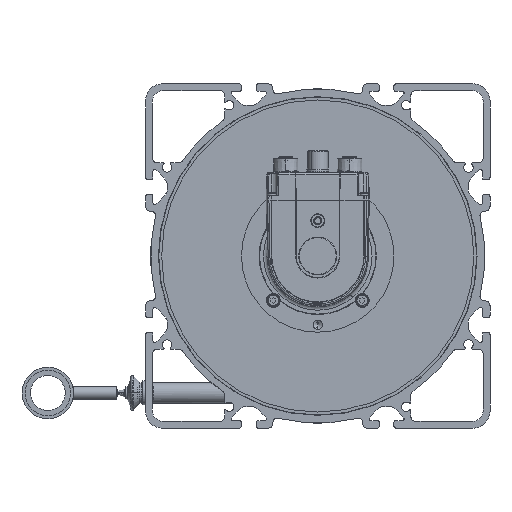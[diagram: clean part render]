
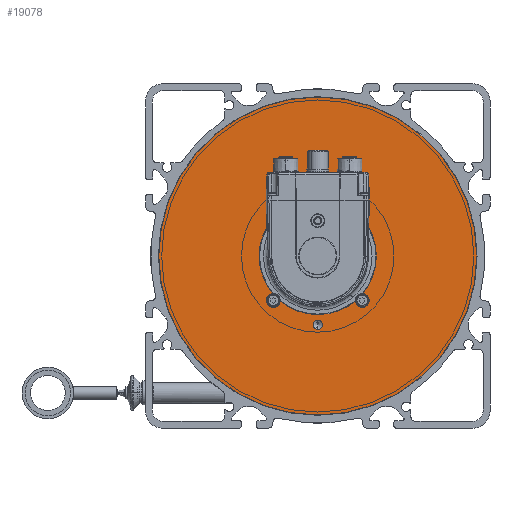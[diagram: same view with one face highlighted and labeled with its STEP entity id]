
A CAD part, left-side view. The second image highlights one B-rep face of the part: STEP entity #19078.
In plain terms, the highlighted planar face has unit normal (-1, 0, 0) as drawn and (1, 0, 0) by its records, which use the part's own axes.
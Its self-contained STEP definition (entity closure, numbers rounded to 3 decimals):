
#17919=CARTESIAN_POINT('',(8.,0.,0.));
#17920=DIRECTION('',(-1.,0.,0.));
#17921=DIRECTION('',(0.,1.,0.));
#17922=AXIS2_PLACEMENT_3D('',#17919,#17920,#17921);
#17927=CARTESIAN_POINT('',(8.,0.,0.));
#17928=DIRECTION('',(1.,0.,0.));
#17929=DIRECTION('',(0.,1.,0.));
#17930=AXIS2_PLACEMENT_3D('',#17927,#17928,#17929);
#17935=CARTESIAN_POINT('',(8.,-25.809,-25.809));
#17936=DIRECTION('',(1.,0.,0.));
#17937=DIRECTION('',(0.,-1.,0.));
#17938=AXIS2_PLACEMENT_3D('',#17935,#17936,#17937);
#17943=CARTESIAN_POINT('',(8.,-25.809,-25.809));
#17944=DIRECTION('',(1.,0.,0.));
#17945=DIRECTION('',(0.,1.,0.));
#17946=AXIS2_PLACEMENT_3D('',#17943,#17944,#17945);
#17951=CARTESIAN_POINT('',(8.,-25.809,25.809));
#17952=DIRECTION('',(1.,0.,0.));
#17953=DIRECTION('',(0.,0.,1.));
#17954=AXIS2_PLACEMENT_3D('',#17951,#17952,#17953);
#17959=CARTESIAN_POINT('',(8.,-25.809,25.809));
#17960=DIRECTION('',(1.,0.,0.));
#17961=DIRECTION('',(0.,0.,-1.));
#17962=AXIS2_PLACEMENT_3D('',#17959,#17960,#17961);
#17967=CARTESIAN_POINT('',(8.,25.809,25.809));
#17968=DIRECTION('',(1.,0.,0.));
#17969=DIRECTION('',(0.,1.,0.));
#17970=AXIS2_PLACEMENT_3D('',#17967,#17968,#17969);
#17975=CARTESIAN_POINT('',(8.,25.809,25.809));
#17976=DIRECTION('',(1.,0.,0.));
#17977=DIRECTION('',(0.,-1.,0.));
#17978=AXIS2_PLACEMENT_3D('',#17975,#17976,#17977);
#17983=CARTESIAN_POINT('',(8.,25.809,-25.809));
#17984=DIRECTION('',(1.,0.,0.));
#17985=DIRECTION('',(0.,0.,-1.));
#17986=AXIS2_PLACEMENT_3D('',#17983,#17984,#17985);
#17991=CARTESIAN_POINT('',(8.,25.809,-25.809));
#17992=DIRECTION('',(1.,0.,0.));
#17993=DIRECTION('',(0.,0.,1.));
#17994=AXIS2_PLACEMENT_3D('',#17991,#17992,#17993);
#17999=CARTESIAN_POINT('',(8.,40.,0.));
#18000=DIRECTION('',(1.,0.,0.));
#18001=DIRECTION('',(0.,-1.,0.));
#18002=AXIS2_PLACEMENT_3D('',#17999,#18000,#18001);
#18007=CARTESIAN_POINT('',(8.,40.,0.));
#18008=DIRECTION('',(1.,0.,0.));
#18009=DIRECTION('',(0.,1.,0.));
#18010=AXIS2_PLACEMENT_3D('',#18007,#18008,#18009);
#18015=CARTESIAN_POINT('',(8.,-40.,0.));
#18016=DIRECTION('',(1.,0.,0.));
#18017=DIRECTION('',(0.,1.,0.));
#18018=AXIS2_PLACEMENT_3D('',#18015,#18016,#18017);
#18023=CARTESIAN_POINT('',(8.,-40.,0.));
#18024=DIRECTION('',(1.,0.,0.));
#18025=DIRECTION('',(0.,-1.,0.));
#18026=AXIS2_PLACEMENT_3D('',#18023,#18024,#18025);
#18031=CARTESIAN_POINT('',(8.,0.,0.));
#18032=DIRECTION('',(-1.,0.,0.));
#18033=DIRECTION('',(0.,1.,0.));
#18034=AXIS2_PLACEMENT_3D('',#18031,#18032,#18033);
#18039=CARTESIAN_POINT('',(8.,0.,0.));
#18040=DIRECTION('',(-1.,0.,0.));
#18041=DIRECTION('',(0.,-1.,0.));
#18042=AXIS2_PLACEMENT_3D('',#18039,#18040,#18041);
#18717=CARTESIAN_POINT('',(8.,34.02,0.));
#18718=CARTESIAN_POINT('',(8.,-34.02,0.));
#18719=VERTEX_POINT('',#18717);
#18720=VERTEX_POINT('',#18718);
#18735=CARTESIAN_POINT('',(8.,37.35,0.));
#18736=CARTESIAN_POINT('',(8.,42.65,0.));
#18737=VERTEX_POINT('',#18735);
#18738=VERTEX_POINT('',#18736);
#18745=CARTESIAN_POINT('',(8.,-37.35,0.));
#18746=CARTESIAN_POINT('',(8.,-42.65,0.));
#18747=VERTEX_POINT('',#18745);
#18748=VERTEX_POINT('',#18746);
#18753=CARTESIAN_POINT('',(8.,-28.159,-25.809));
#18754=CARTESIAN_POINT('',(8.,-23.459,-25.809));
#18755=VERTEX_POINT('',#18753);
#18756=VERTEX_POINT('',#18754);
#18761=CARTESIAN_POINT('',(8.,-25.809,28.159));
#18762=CARTESIAN_POINT('',(8.,-25.809,23.459));
#18763=VERTEX_POINT('',#18761);
#18764=VERTEX_POINT('',#18762);
#18769=CARTESIAN_POINT('',(8.,28.159,25.809));
#18770=CARTESIAN_POINT('',(8.,23.459,25.809));
#18771=VERTEX_POINT('',#18769);
#18772=VERTEX_POINT('',#18770);
#18777=CARTESIAN_POINT('',(8.,25.809,-28.159));
#18778=CARTESIAN_POINT('',(8.,25.809,-23.459));
#18779=VERTEX_POINT('',#18777);
#18780=VERTEX_POINT('',#18778);
#18785=CARTESIAN_POINT('',(8.,92.3,0.));
#18786=CARTESIAN_POINT('',(8.,-92.3,0.));
#18787=VERTEX_POINT('',#18785);
#18788=VERTEX_POINT('',#18786);
#19027=CARTESIAN_POINT('',(8.,0.,0.));
#19028=DIRECTION('',(1.,0.,0.));
#19029=DIRECTION('',(0.,-1.,0.));
#19030=AXIS2_PLACEMENT_3D('',#19027,#19028,#19029);
#19031=PLANE('',#19030);
#19033=ORIENTED_EDGE('',*,*,#19032,.T.);
#19035=ORIENTED_EDGE('',*,*,#19034,.T.);
#19036=EDGE_LOOP('',(#19033,#19035));
#19037=FACE_OUTER_BOUND('',#19036,.F.);
#19039=ORIENTED_EDGE('',*,*,#19038,.T.);
#19041=ORIENTED_EDGE('',*,*,#19040,.T.);
#19042=EDGE_LOOP('',(#19039,#19041));
#19043=FACE_BOUND('',#19042,.F.);
#19045=ORIENTED_EDGE('',*,*,#19044,.T.);
#19047=ORIENTED_EDGE('',*,*,#19046,.T.);
#19048=EDGE_LOOP('',(#19045,#19047));
#19049=FACE_BOUND('',#19048,.F.);
#19051=ORIENTED_EDGE('',*,*,#19050,.T.);
#19053=ORIENTED_EDGE('',*,*,#19052,.T.);
#19054=EDGE_LOOP('',(#19051,#19053));
#19055=FACE_BOUND('',#19054,.F.);
#19057=ORIENTED_EDGE('',*,*,#19056,.T.);
#19059=ORIENTED_EDGE('',*,*,#19058,.T.);
#19060=EDGE_LOOP('',(#19057,#19059));
#19061=FACE_BOUND('',#19060,.F.);
#19063=ORIENTED_EDGE('',*,*,#19062,.T.);
#19065=ORIENTED_EDGE('',*,*,#19064,.T.);
#19066=EDGE_LOOP('',(#19063,#19065));
#19067=FACE_BOUND('',#19066,.F.);
#19069=ORIENTED_EDGE('',*,*,#19068,.T.);
#19071=ORIENTED_EDGE('',*,*,#19070,.T.);
#19072=EDGE_LOOP('',(#19069,#19071));
#19073=FACE_BOUND('',#19072,.F.);
#19074=ORIENTED_EDGE('',*,*,#18995,.F.);
#19075=ORIENTED_EDGE('',*,*,#18973,.T.);
#19076=EDGE_LOOP('',(#19074,#19075));
#19077=FACE_BOUND('',#19076,.F.);
#17923=CIRCLE('',#17922,34.02);
#17931=CIRCLE('',#17930,34.02);
#17939=CIRCLE('',#17938,2.35);
#17947=CIRCLE('',#17946,2.35);
#17955=CIRCLE('',#17954,2.35);
#17963=CIRCLE('',#17962,2.35);
#17971=CIRCLE('',#17970,2.35);
#17979=CIRCLE('',#17978,2.35);
#17987=CIRCLE('',#17986,2.35);
#17995=CIRCLE('',#17994,2.35);
#18003=CIRCLE('',#18002,2.65);
#18011=CIRCLE('',#18010,2.65);
#18019=CIRCLE('',#18018,2.65);
#18027=CIRCLE('',#18026,2.65);
#18035=CIRCLE('',#18034,92.3);
#18043=CIRCLE('',#18042,92.3);
#18973=EDGE_CURVE('',#18719,#18720,#17931,.T.);
#18995=EDGE_CURVE('',#18719,#18720,#17923,.T.);
#19032=EDGE_CURVE('',#18787,#18788,#18035,.T.);
#19034=EDGE_CURVE('',#18788,#18787,#18043,.T.);
#19038=EDGE_CURVE('',#18755,#18756,#17939,.T.);
#19040=EDGE_CURVE('',#18756,#18755,#17947,.T.);
#19044=EDGE_CURVE('',#18763,#18764,#17955,.T.);
#19046=EDGE_CURVE('',#18764,#18763,#17963,.T.);
#19050=EDGE_CURVE('',#18771,#18772,#17971,.T.);
#19052=EDGE_CURVE('',#18772,#18771,#17979,.T.);
#19056=EDGE_CURVE('',#18779,#18780,#17987,.T.);
#19058=EDGE_CURVE('',#18780,#18779,#17995,.T.);
#19062=EDGE_CURVE('',#18737,#18738,#18003,.T.);
#19064=EDGE_CURVE('',#18738,#18737,#18011,.T.);
#19068=EDGE_CURVE('',#18747,#18748,#18019,.T.);
#19070=EDGE_CURVE('',#18748,#18747,#18027,.T.);
#19078=ADVANCED_FACE('',(#19037,#19043,#19049,#19055,#19061,#19067,#19073,
#19077),#19031,.T.);
